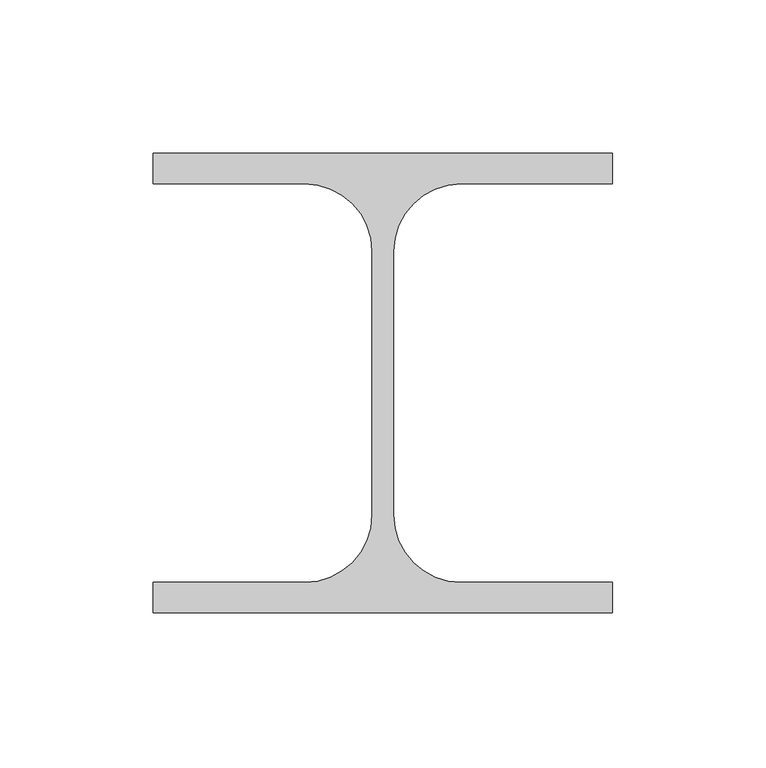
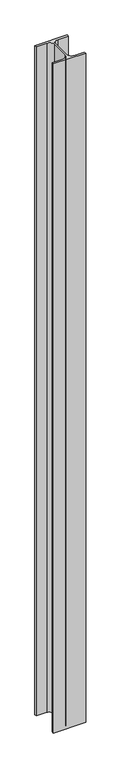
"""IFC4 building model written with IfcOpenShell, lengths in millimetres: column geometry, S柱 H型x : 階名+部材名."""

from ifc_helpers import new_model, si_unit, point, frame, frame_2d, origin, place, context, project, spatial, polyline, circle_curve, trimmed, segment, composite_curve, outline, extrude, source, transform, mapped, element, save


def column_b0c8f336(model_context):
    return source(origin(), model_context, "Body", "SweptSolid", [
        extrude(outline(composite_curve([segment(polyline([(75.0, 75.0), (75.0, 65.0), (25.5, 65.0)]), True, "CONTINUOUS"), segment(trimmed(circle_curve(frame_2d((25.5, 43.0)), 22.0), [point((25.5, 65.0))], [point((3.5, 43.0))], True, "CARTESIAN"), True, "CONTINUOUS"), segment(polyline([(3.5, 43.0), (3.5, -43.0)]), True, "CONTINUOUS"), segment(trimmed(circle_curve(frame_2d((25.5, -43.0)), 22.0), [point((3.5, -43.0))], [point((25.5, -65.0))], True, "CARTESIAN"), True, "CONTINUOUS"), segment(polyline([(25.5, -65.0), (75.0, -65.0), (75.0, -75.0), (-75.0, -75.0), (-75.0, -65.0), (-25.5, -65.0)]), True, "CONTINUOUS"), segment(trimmed(circle_curve(frame_2d((-25.5, -43.0)), 22.0), [point((-25.5, -65.0))], [point((-3.5, -43.0))], True, "CARTESIAN"), True, "CONTINUOUS"), segment(polyline([(-3.5, -43.0), (-3.5, 43.0)]), True, "CONTINUOUS"), segment(trimmed(circle_curve(frame_2d((-25.5, 43.0)), 22.0), [point((-3.5, 43.0))], [point((-25.5, 65.0))], True, "CARTESIAN"), True, "CONTINUOUS"), segment(polyline([(-25.5, 65.0), (-75.0, 65.0), (-75.0, 75.0), (75.0, 75.0)]), True, "CONTINUOUS")], self_intersect=False)), frame((0.0, 0.0, 6550.0), z_axis=(0.0, 0.0, 1.0), x_axis=(1.0, 0.0, 0.0)), (0.0, 0.0, 1.0), 3300.0),
    ])


if __name__ == "__main__":
    model = new_model("IFC4")
    model_context = context("Model", 3, world=origin())
    ifc_project = project(units=[si_unit("LENGTHUNIT", "METRE", prefix="MILLI")], contexts=[model_context])
    site = spatial("IfcSite", under=ifc_project)
    building = spatial("IfcBuilding", under=site)
    placement = place(None, origin())
    column_shape = column_b0c8f336(model_context)
    element("IfcColumn", 1, ObjectType="S柱 H型x : 階名+部材名", at=placement, inside=building, context=model_context, shape_type="MappedRepresentation", body=[
        mapped(column_shape, transform((0.0, 0.0, 0.0), x_axis=(1.0, 0.0, 0.0), y_axis=(0.0, 1.0, 0.0), z_axis=(0.0, 0.0, 1.0))),
    ])
    save(model, "model.ifc")
